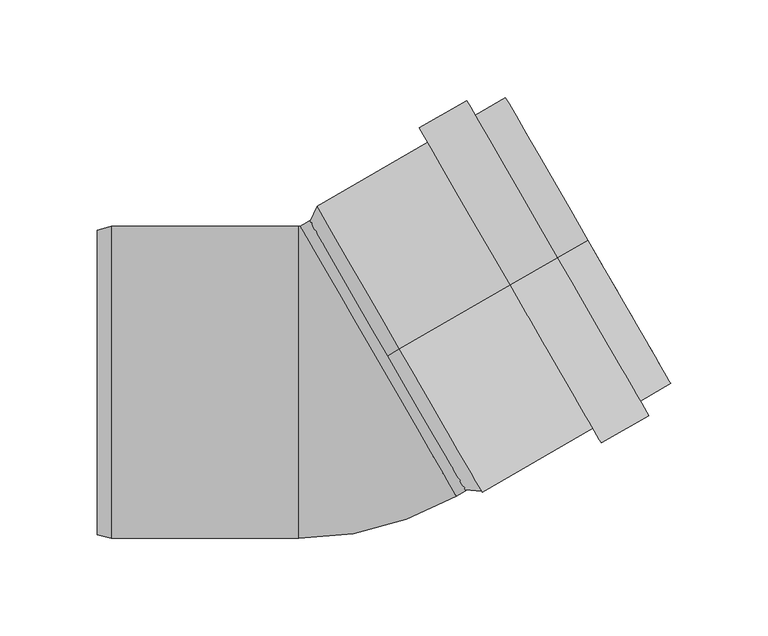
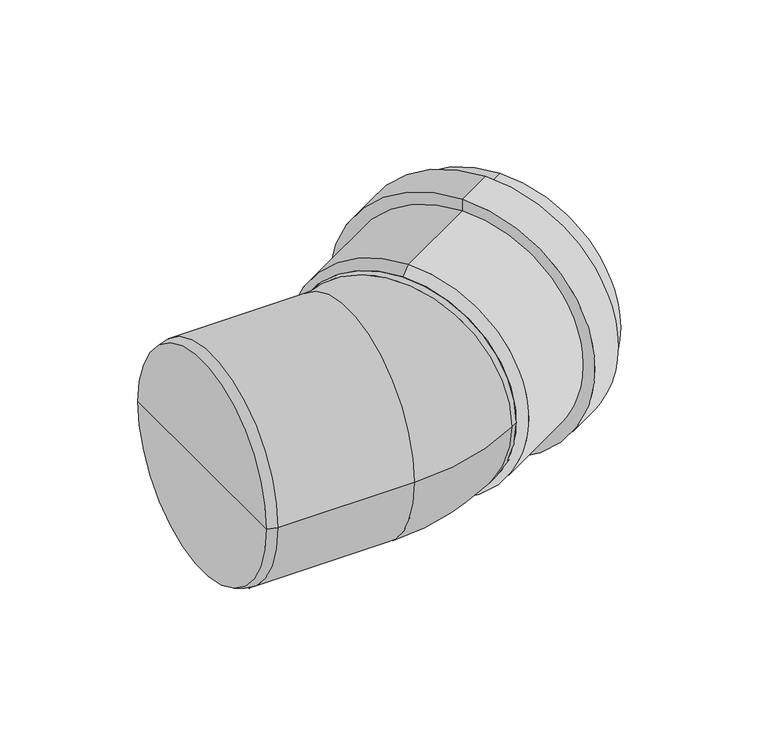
"""IFC4 building model written with IfcOpenShell, lengths in millimetres: pipe fitting geometry, OSMA_KG2000_PPKGB : Koleno 30°."""

from ifc_helpers import new_model, si_unit, point, frame, origin, place, context, project, spatial, polyline, circle_curve, ellipse_curve, trimmed, source, transform, mapped, element, save
from ifc_brep_helpers import plane_surface, cylinder_surface, revolved_surface, advanced_brep


def pipe_fitting_d5bf50a5(model_context):
    return source(origin(), model_context, "Body", "AdvancedBrep", [
        advanced_brep(
        [(29.8778764, 17.25, 80.0), (29.8778764, 17.25, -80.0), (126.439709, 73.0, -80.0), (126.439709, 73.0, 80.0), (86.6025404, 50.0, 84.9), (86.6025404, 50.0, -84.9), (29.8778764, 17.25, -84.9), (29.8778764, 17.25, 84.9), (86.6025404, 50.0, 93.5), (86.6025404, 50.0, -93.5), (110.8512517, 64.0, 93.5), (110.8512517, 64.0, -93.5), (110.8512517, 64.0, 84.9), (110.8512517, 64.0, -84.9), (126.439709, 73.0, 84.9), (126.439709, 73.0, -84.9), (23.8156986, 13.75, 75.1), (23.8156986, 13.75, -75.1), (23.8156986, 13.75, 80.0), (23.8156986, 13.75, -80.0)],
        [
            (0, 1, circle_curve(frame((29.8778764, 17.25, 0.0), z_axis=(-0.8660254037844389, -0.49999999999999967, 0.0), x_axis=(0.0, 0.0, -1.0)), 80.0)),
            (1, 2),
            (2, 3, circle_curve(frame((126.439709, 73.0, 0.0), z_axis=(0.8660254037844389, 0.49999999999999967, 0.0), x_axis=(0.0, 0.0, -1.0)), 80.0)),
            (3, 0),
            (1, 0, circle_curve(frame((29.8778764, 17.25, 0.0), z_axis=(-0.8660254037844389, -0.49999999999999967, 0.0), x_axis=(0.0, 0.0, -1.0)), 80.0)),
            (3, 2, circle_curve(frame((126.439709, 73.0, 0.0), z_axis=(0.8660254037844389, 0.49999999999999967, 0.0), x_axis=(0.0, 0.0, -1.0)), 80.0)),
            (4, 5, circle_curve(frame((86.6025404, 50.0, 0.0), z_axis=(-0.8660254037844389, -0.49999999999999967, 0.0), x_axis=(0.0, 0.0, -1.0)), 84.9)),
            (5, 6),
            (6, 7, circle_curve(frame((29.8778764, 17.25, 0.0), z_axis=(0.8660254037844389, 0.49999999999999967, 0.0), x_axis=(0.0, 0.0, -1.0)), 84.9)),
            (7, 4),
            (5, 4, circle_curve(frame((86.6025404, 50.0, 0.0), z_axis=(-0.8660254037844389, -0.49999999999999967, 0.0), x_axis=(0.0, 0.0, -1.0)), 84.9)),
            (7, 6, circle_curve(frame((29.8778764, 17.25, 0.0), z_axis=(0.8660254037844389, 0.49999999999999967, 0.0), x_axis=(0.0, 0.0, -1.0)), 84.9)),
            (8, 9, circle_curve(frame((86.6025404, 50.0, 0.0), z_axis=(-0.8660254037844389, -0.49999999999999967, 0.0), x_axis=(0.0, 0.0, -1.0)), 93.5)),
            (9, 5),
            (4, 8),
            (9, 8, circle_curve(frame((86.6025404, 50.0, 0.0), z_axis=(-0.8660254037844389, -0.49999999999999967, 0.0), x_axis=(0.0, 0.0, -1.0)), 93.5)),
            (10, 11, circle_curve(frame((110.8512517, 64.0, 0.0), z_axis=(-0.8660254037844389, -0.49999999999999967, 0.0), x_axis=(0.0, 0.0, -1.0)), 93.5)),
            (11, 9),
            (8, 10),
            (11, 10, circle_curve(frame((110.8512517, 64.0, 0.0), z_axis=(-0.8660254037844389, -0.49999999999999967, 0.0), x_axis=(0.0, 0.0, -1.0)), 93.5)),
            (12, 13, circle_curve(frame((110.8512517, 64.0, 0.0), z_axis=(-0.8660254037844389, -0.49999999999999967, 0.0), x_axis=(0.0, 0.0, -1.0)), 84.9)),
            (13, 11),
            (10, 12),
            (13, 12, circle_curve(frame((110.8512517, 64.0, 0.0), z_axis=(-0.8660254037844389, -0.49999999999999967, 0.0), x_axis=(0.0, 0.0, -1.0)), 84.9)),
            (14, 15, circle_curve(frame((126.439709, 73.0, 0.0), z_axis=(-0.8660254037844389, -0.49999999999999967, 0.0), x_axis=(0.0, 0.0, -1.0)), 84.9)),
            (15, 13),
            (12, 14),
            (15, 14, circle_curve(frame((126.439709, 73.0, 0.0), z_axis=(-0.8660254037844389, -0.49999999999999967, 0.0), x_axis=(0.0, 0.0, -1.0)), 84.9)),
            (2, 15),
            (14, 3),
            (16, 17, circle_curve(frame((23.8156986, 13.75, 0.0), z_axis=(-0.8660254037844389, -0.49999999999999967, 0.0), x_axis=(0.0, 0.0, -1.0)), 75.1)),
            (17, 1),
            (0, 16),
            (17, 16, circle_curve(frame((23.8156986, 13.75, 0.0), z_axis=(-0.8660254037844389, -0.49999999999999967, 0.0), x_axis=(0.0, 0.0, -1.0)), 75.1)),
            (18, 19, circle_curve(frame((23.8156986, 13.75, 0.0), z_axis=(-0.8660254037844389, -0.49999999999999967, 0.0), x_axis=(0.0, 0.0, -1.0)), 80.0)),
            (19, 17),
            (16, 18),
            (19, 18, circle_curve(frame((23.8156986, 13.75, 0.0), z_axis=(-0.8660254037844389, -0.49999999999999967, 0.0), x_axis=(0.0, 0.0, -1.0)), 80.0)),
            (6, 19),
            (18, 7),
        ],
        [
            revolved_surface(polyline([(126.43970900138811, 72.99999999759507, -80.0), (29.877876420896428, 17.24999996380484, -80.0)]), (2438.2721981, 1407.7371099, 0.0), (0.8660254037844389, 0.49999999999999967, 0.0)),
            cylinder_surface(frame((2438.2721981, 1407.7371099, 0.0), z_axis=(0.8660254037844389, 0.49999999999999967, 0.0), x_axis=(0.0, 0.0, -1.0)), 84.9),
            plane_surface(frame((86.6025404, 50.0, 0.0), z_axis=(-0.8660254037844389, -0.49999999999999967, 0.0), x_axis=(0.0, 0.0, -1.0))),
            cylinder_surface(frame((2438.2721981, 1407.7371099, 0.0), z_axis=(0.8660254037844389, 0.49999999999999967, 0.0), x_axis=(0.0, 0.0, -1.0)), 93.5),
            plane_surface(frame((110.8512517, 64.0, 0.0), z_axis=(0.8660254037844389, 0.49999999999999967, 0.0), x_axis=(0.0, 0.0, -1.0))),
            plane_surface(frame((126.439709, 73.0, 0.0), z_axis=(0.8660254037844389, 0.49999999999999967, 0.0), x_axis=(0.0, 0.0, -1.0))),
            revolved_surface(polyline([(29.8778764, 17.25, -80.0), (23.8156986, 13.75, -75.1)]), (2438.2721981, 1407.7371099, 0.0), (0.8660254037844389, 0.49999999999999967, 0.0)),
            plane_surface(frame((23.8156986, 13.75, 0.0), z_axis=(-0.8660254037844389, -0.49999999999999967, 0.0), x_axis=(0.0, 0.0, -1.0))),
            revolved_surface(polyline([(23.8156986, 13.75, -80.0), (29.8778764, 17.25, -84.9)]), (2438.2721981, 1407.7371099, 0.0), (0.8660254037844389, 0.49999999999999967, 0.0)),
        ],
        [
            (0, [[1, 2, 3, 4]]),
            (0, [[5, -4, 6, -2]]),
            (1, [[7, 8, 9, 10]]),
            (1, [[11, -10, 12, -8]]),
            (2, [[13, 14, -7, 15]]),
            (2, [[16, -15, -11, -14]]),
            (3, [[17, 18, -13, 19]]),
            (3, [[20, -19, -16, -18]]),
            (4, [[21, 22, -17, 23]]),
            (4, [[24, -23, -20, -22]]),
            (1, [[25, 26, -21, 27]]),
            (1, [[28, -27, -24, -26]]),
            (5, [[-3, 29, -25, 30]]),
            (5, [[-6, -30, -28, -29]]),
            (6, [[31, 32, -1, 33]]),
            (6, [[34, -33, -5, -32]]),
            (7, [[35, 36, -31, 37]]),
            (7, [[38, -37, -34, -36]]),
            (8, [[-9, 39, -35, 40]]),
            (8, [[-12, -40, -38, -39]]),
        ],
    ),
        advanced_brep(
        [(-21.0878592, 80.2009619, 0.0), (-21.8378592, 80.0, 0.0), (-21.8378592, -80.0, 0.0), (58.9121408, -58.3631027, 0.0), (18.9121408, 10.9189296, 80.0), (18.9121408, 10.9189296, -80.0), (-125.0, 0.0, 0.0), (-125.0, 78.1243556, 0.0), (-125.0, -78.1243556, 0.0), (-118.0, 80.0, 0.0), (-118.0, -80.0, 0.0), (69.4448637, -52.2820323, 0.0), (-10.5551363, 86.2820323, 0.0)],
        [
            (0, 1, circle_curve(frame((-21.8378592, 81.5, 0.0), z_axis=(0.0, 0.0, -1.0), x_axis=(0.0, -1.0, 0.0)), 1.5)),
            (1, 2, circle_curve(frame((-21.8378592, 0.0, 0.0), z_axis=(1.0, 0.0, 0.0), x_axis=(0.0, 1.0, 0.0)), 80.0)),
            (2, 3, circle_curve(frame((-21.8378592, 81.5, 0.0), z_axis=(0.0, 0.0, 1.0), x_axis=(0.0, -1.0, 0.0)), 161.5)),
            (3, 4, circle_curve(frame((18.9121408, 10.9189296, 0.0), z_axis=(-0.8660254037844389, -0.4999999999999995, 0.0), x_axis=(-0.4999999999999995, 0.8660254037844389, 0.0)), 80.0)),
            (4, 0, circle_curve(frame((18.9121408, 10.9189296, 0.0), z_axis=(-0.8660254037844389, -0.4999999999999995, 0.0), x_axis=(-0.4999999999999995, 0.8660254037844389, 0.0)), 80.0)),
            (0, 5, circle_curve(frame((18.9121408, 10.9189296, 0.0), z_axis=(-0.8660254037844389, -0.4999999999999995, 0.0), x_axis=(-0.4999999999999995, 0.8660254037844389, 0.0)), 80.0)),
            (5, 3, circle_curve(frame((18.9121408, 10.9189296, 0.0), z_axis=(-0.8660254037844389, -0.4999999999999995, 0.0), x_axis=(-0.4999999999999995, 0.8660254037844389, 0.0)), 80.0)),
            (2, 1, circle_curve(frame((-21.8378592, 0.0, 0.0), z_axis=(1.0, 0.0, 0.0), x_axis=(0.0, 1.0, 0.0)), 80.0)),
            (6, 7),
            (7, 8, circle_curve(frame((-125.0, 0.0, 0.0), z_axis=(-1.0, 0.0, 0.0), x_axis=(0.0, 1.0, 0.0)), 78.1243556)),
            (8, 6),
            (8, 7, circle_curve(frame((-125.0, 0.0, 0.0), z_axis=(-1.0, 0.0, 0.0), x_axis=(0.0, 1.0, 0.0)), 78.1243556)),
            (7, 9),
            (9, 10, circle_curve(frame((-118.0, 0.0, 0.0), z_axis=(-1.0, 0.0, 0.0), x_axis=(0.0, 1.0, 0.0)), 80.0)),
            (10, 8),
            (10, 9, circle_curve(frame((-118.0, 0.0, 0.0), z_axis=(-1.0, 0.0, 0.0), x_axis=(0.0, 1.0, 0.0)), 80.0)),
            (9, 1),
            (2, 10),
            (11, 12, circle_curve(frame((29.4448637, 17.0, 0.0), z_axis=(0.8660254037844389, 0.49999999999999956, 0.0), x_axis=(-0.49999999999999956, 0.8660254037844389, 0.0)), 80.0)),
            (12, 11, circle_curve(frame((29.4448637, 17.0, 0.0), z_axis=(0.8660254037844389, 0.49999999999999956, 0.0), x_axis=(-0.49999999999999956, 0.8660254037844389, 0.0)), 80.0)),
            (12, 0),
            (3, 11),
        ],
        [
            revolved_surface(trimmed(ellipse_curve(frame((-21.8378592, 0.0, 0.0), z_axis=(-1.0, 0.0, 0.0), x_axis=(0.0, 1.0, 0.0)), 80.0, 80.0), [point((-21.8378592, -80.0, 0.0))], [point((-21.8378592, 80.0, 0.0))], True, "CARTESIAN"), (-21.8378592, 81.5, 0.0), (0.0, 0.0, 1.0)),
            revolved_surface(trimmed(ellipse_curve(frame((-21.8378592, 0.0, 0.0), z_axis=(-1.0, 0.0, 0.0), x_axis=(0.0, 1.0, 0.0)), 80.0, 80.0), [point((-21.8378592, 80.0, 0.0))], [point((-21.8378592, -80.0, 0.0))], True, "CARTESIAN"), (-21.8378592, 81.5, 0.0), (0.0, 0.0, 1.0)),
            plane_surface(frame((-125.0, 0.0, 0.0), z_axis=(-1.0, 0.0, 0.0), x_axis=(0.0, 1.0, 0.0))),
            revolved_surface(polyline([(-118.0, 80.0, 0.0), (-125.0, 78.1243556, 0.0)]), (331.0587718, 0.0, 0.0), (-1.0, 0.0, 0.0)),
            cylinder_surface(frame((331.0587718, 0.0, 0.0), z_axis=(-1.0, 0.0, 0.0), x_axis=(0.0, 1.0, 0.0)), 80.0),
            plane_surface(frame((29.4448637, 17.0, 0.0), z_axis=(0.8660254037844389, 0.49999999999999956, 0.0), x_axis=(0.0, 0.0, 1.0))),
            cylinder_surface(frame((18.9121408, 10.9189296, 0.0), z_axis=(-0.8660254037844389, -0.49999999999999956, 0.0), x_axis=(-0.49999999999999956, 0.8660254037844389, 0.0)), 80.0),
        ],
        [
            (0, [[1, 2, 3, 4, 5]]),
            (1, [[-1, 6, 7, -3, 8]]),
            (2, [[9, 10, 11]]),
            (2, [[-9, -11, 12]]),
            (3, [[-10, 13, 14, 15]]),
            (3, [[-12, -15, 16, -13]]),
            (4, [[-14, 17, -8, 18]]),
            (4, [[-16, -18, -2, -17]]),
            (5, [[19, 20]]),
            (6, [[-20, 21, -5, -4, 22]]),
            (6, [[-19, -22, -7, -6, -21]]),
        ],
    ),
    ])


if __name__ == "__main__":
    model = new_model("IFC4")
    model_context = context("Model", 3, world=origin())
    ifc_project = project(units=[si_unit("LENGTHUNIT", "METRE", prefix="MILLI")], contexts=[model_context])
    site = spatial("IfcSite", under=ifc_project)
    building = spatial("IfcBuilding", under=site)
    placement = place(None, origin())
    pipe_fitting_shape = pipe_fitting_d5bf50a5(model_context)
    element("IfcPipeFitting", 1, ObjectType="OSMA_KG2000_PPKGB : Koleno 30°", at=placement, inside=building, context=model_context, shape_type="MappedRepresentation", body=[
        mapped(pipe_fitting_shape, transform((0.0, 0.0, 0.0), x_axis=(1.0, 0.0, 0.0), y_axis=(0.0, 1.0, 0.0), z_axis=(0.0, 0.0, 1.0))),
    ])
    save(model, "model.ifc")
